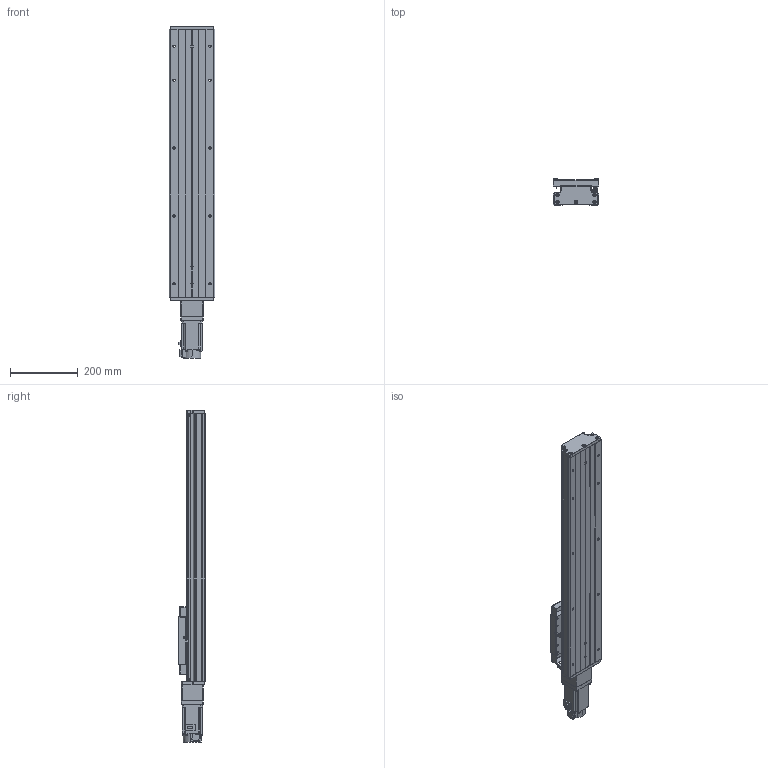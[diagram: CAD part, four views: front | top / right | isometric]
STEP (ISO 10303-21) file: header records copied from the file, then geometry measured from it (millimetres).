
FILE_DESCRIPTION (( 'STEP AP203' ), '1' );
FILE_NAME ('GTH14-550-BC-M40-C4.step', '2023-06-30T08:34:35', ( '微软用户' ), ( '微软中国' ), 'SwSTEP 2.0', 'SolidWorks 2020', '' );
FILE_SCHEMA (( 'CONFIG_CONTROL_DESIGN' ));
Length unit declared in the file: millimetre
Products named in the file (20): GTH14-001_550; CTHA60-017; CTHA86-006-1_M40; GTH14-002_GTH14-002; EE_SX911P_R; CTHA86-013; GTH14-004; CTHA60-016; CTHA86-027-1; GTH14-005; GBT 70.1-M3℅5; HG-KN43J-S100; GB1155-6X6; GBT77-2000 M3×3; GBT 70.3-M3℅8; GBT70.1 M5℅16; GTH14-031; GTH14-550-BC-M40-C4; GBT 70.2-M3¡Á5_M3¡Á6; す晦芛蹟隊 M3℅5
Assembly tree (57 placements, depth 2):
  GTH14-550-BC-M40-C4
    GTH14-001_550
    GTH14-002_GTH14-002
    GTH14-004
    GTH14-005
    GB1155-6X6  x2
    GBT70.1 M5℅16  x10
    GBT 70.2-M3¡Á5_M3¡Á6  x8
    CTHA60-017  x3
    EE_SX911P_R  x3
    CTHA60-016  x2
    GBT 70.1-M3℅5  x6
    GBT77-2000 M3×3  x6
    GTH14-031
    す晦芛蹟隊 M3℅5  x6
    CTHA86-006-1_M40
    CTHA86-013
    CTHA86-027-1
    HG-KN43J-S100
    GBT 70.3-M3℅8  x2
Bounding box: 135 x 78 x 978.7 mm (x, y, z)
Volume: 4889388.3 mm3; surface area: 788144.5 mm2
Topology: 60 solids, 60 shells, 2414 faces, 5757 edges, 3554 vertices
Faces by surface type: plane 1302, cylinder 648, cone 304, torus 120, sphere 20, bspline 20
Entity records: 44420 total; most frequent: CARTESIAN_POINT 9897, DIRECTION 6516, ORIENTED_EDGE 6398, EDGE_CURVE 3199, AXIS2_PLACEMENT_3D 2217, LINE 2082, VECTOR 2082, VERTEX_POINT 2022
